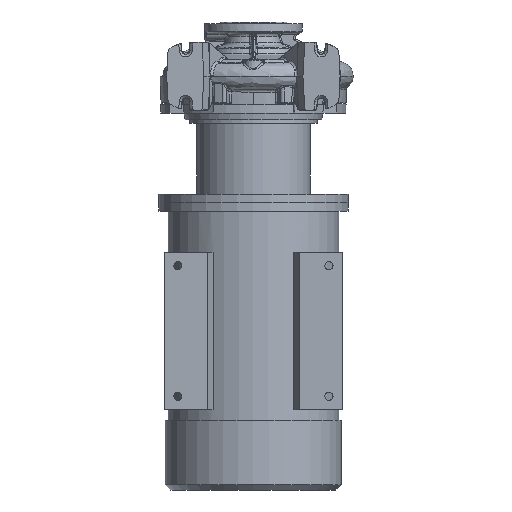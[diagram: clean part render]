
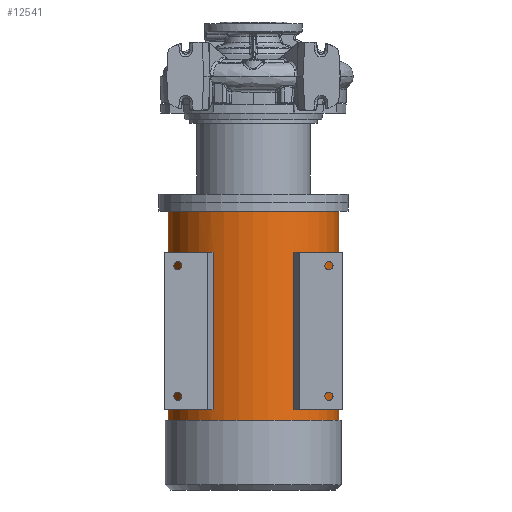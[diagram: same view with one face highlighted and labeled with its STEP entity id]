
A CAD part, front view. The second image highlights one B-rep face of the part: STEP entity #12541.
In plain terms, the highlighted cylindrical face has radius 157.5 mm (diameter 315 mm), a partial arc.
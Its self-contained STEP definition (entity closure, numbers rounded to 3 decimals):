
#185 = DIRECTION ( 'NONE',  ( 0., 0., -1. ) ) ;
#416 = LINE ( 'NONE', #84147, #65145 ) ;
#608 = DIRECTION ( 'NONE',  ( 0., 0., 1. ) ) ;
#690 = ORIENTED_EDGE ( 'NONE', *, *, #46522, .F. ) ;
#981 = VERTEX_POINT ( 'NONE', #20526 ) ;
#1219 = CARTESIAN_POINT ( 'NONE',  ( 74.479, -138.777, -764. ) ) ;
#2522 = CIRCLE ( 'NONE', #5265, 157.5 ) ;
#2725 = DIRECTION ( 'NONE',  ( 0., 0., -1. ) ) ;
#3087 = VERTEX_POINT ( 'NONE', #51834 ) ;
#3125 = VECTOR ( 'NONE', #29579, 1000. ) ;
#3886 = DIRECTION ( 'NONE',  ( 0., 0., -1. ) ) ;
#3949 = CARTESIAN_POINT ( 'NONE',  ( 0., 0., -325.5 ) ) ;
#4939 = LINE ( 'NONE', #48304, #90705 ) ;
#5265 = AXIS2_PLACEMENT_3D ( 'NONE', #11859, #3886, #46486 ) ;
#5343 = EDGE_CURVE ( 'NONE', #3087, #49482, #34241, .T. ) ;
#5464 = VERTEX_POINT ( 'NONE', #30559 ) ;
#5625 = CARTESIAN_POINT ( 'NONE',  ( 0., 0., -325.5 ) ) ;
#5710 = LINE ( 'NONE', #56888, #71613 ) ;
#5922 = AXIS2_PLACEMENT_3D ( 'NONE', #78295, #8237, #31495 ) ;
#7129 = EDGE_CURVE ( 'NONE', #70695, #53732, #39959, .T. ) ;
#7170 = EDGE_CURVE ( 'NONE', #23706, #46280, #87375, .T. ) ;
#7984 = ORIENTED_EDGE ( 'NONE', *, *, #15955, .T. ) ;
#8237 = DIRECTION ( 'NONE',  ( 0., 0., -1. ) ) ;
#8559 = ORIENTED_EDGE ( 'NONE', *, *, #43470, .F. ) ;
#9462 = VERTEX_POINT ( 'NONE', #55089 ) ;
#11723 = EDGE_LOOP ( 'NONE', ( #690, #22804, #36963, #90199 ) ) ;
#11859 = CARTESIAN_POINT ( 'NONE',  ( 0., 0., -249. ) ) ;
#11992 = AXIS2_PLACEMENT_3D ( 'NONE', #57033, #28754, #78281 ) ;
#12541 = ADVANCED_FACE ( 'NONE', ( #80023, #50212, #30498 ), #28308, .T. ) ;
#14687 = AXIS2_PLACEMENT_3D ( 'NONE', #3949, #46234, #17480 ) ;
#15955 = EDGE_CURVE ( 'NONE', #46280, #9462, #18081, .T. ) ;
#15975 = VERTEX_POINT ( 'NONE', #25408 ) ;
#17480 = DIRECTION ( 'NONE',  ( -1., 0., 0. ) ) ;
#18081 = CIRCLE ( 'NONE', #14687, 157.5 ) ;
#18415 = CARTESIAN_POINT ( 'NONE',  ( 0., 0., -615.5 ) ) ;
#19827 = LINE ( 'NONE', #64996, #68179 ) ;
#19852 = EDGE_CURVE ( 'NONE', #23706, #981, #51982, .T. ) ;
#20526 = CARTESIAN_POINT ( 'NONE',  ( 86.091, -131.889, -615.5 ) ) ;
#22031 = DIRECTION ( 'NONE',  ( 0., 0., -1. ) ) ;
#22489 = AXIS2_PLACEMENT_3D ( 'NONE', #18415, #54541, #48405 ) ;
#22804 = ORIENTED_EDGE ( 'NONE', *, *, #56120, .T. ) ;
#23706 = VERTEX_POINT ( 'NONE', #70924 ) ;
#24971 = ORIENTED_EDGE ( 'NONE', *, *, #61064, .T. ) ;
#25357 = CIRCLE ( 'NONE', #22489, 157.5 ) ;
#25408 = CARTESIAN_POINT ( 'NONE',  ( 157.5, 0., -249. ) ) ;
#26456 = DIRECTION ( 'NONE',  ( 0., 0., -1. ) ) ;
#28308 = CYLINDRICAL_SURFACE ( 'NONE', #5922, 157.5 ) ;
#28754 = DIRECTION ( 'NONE',  ( 0., 0., 1. ) ) ;
#29044 = DIRECTION ( 'NONE',  ( -1., 0., 0. ) ) ;
#29579 = DIRECTION ( 'NONE',  ( 0., 0., -1. ) ) ;
#30498 = FACE_BOUND ( 'NONE', #42424, .T. ) ;
#30559 = CARTESIAN_POINT ( 'NONE',  ( -74.479, -138.777, -615.5 ) ) ;
#30717 = AXIS2_PLACEMENT_3D ( 'NONE', #35472, #22031, #29044 ) ;
#31495 = DIRECTION ( 'NONE',  ( -1., 0., 0. ) ) ;
#34241 = CIRCLE ( 'NONE', #36979, 157.5 ) ;
#35472 = CARTESIAN_POINT ( 'NONE',  ( 0., 0., -635. ) ) ;
#35956 = LINE ( 'NONE', #86542, #3125 ) ;
#36348 = VERTEX_POINT ( 'NONE', #64501 ) ;
#36963 = ORIENTED_EDGE ( 'NONE', *, *, #51544, .T. ) ;
#36979 = AXIS2_PLACEMENT_3D ( 'NONE', #5625, #26456, #75631 ) ;
#39959 = CIRCLE ( 'NONE', #30717, 157.5 ) ;
#41359 = ORIENTED_EDGE ( 'NONE', *, *, #19852, .F. ) ;
#42366 = CARTESIAN_POINT ( 'NONE',  ( -86.091, -131.889, -325.5 ) ) ;
#42424 = EDGE_LOOP ( 'NONE', ( #64818, #83835, #8559, #53722 ) ) ;
#43470 = EDGE_CURVE ( 'NONE', #49482, #50431, #5710, .T. ) ;
#46234 = DIRECTION ( 'NONE',  ( 0., 0., 1. ) ) ;
#46280 = VERTEX_POINT ( 'NONE', #68634 ) ;
#46486 = DIRECTION ( 'NONE',  ( -1., 0., 0. ) ) ;
#46522 = EDGE_CURVE ( 'NONE', #15975, #70695, #35956, .T. ) ;
#48304 = CARTESIAN_POINT ( 'NONE',  ( -157.5, 0., -764. ) ) ;
#48405 = DIRECTION ( 'NONE',  ( 1., 0., 0. ) ) ;
#49482 = VERTEX_POINT ( 'NONE', #42366 ) ;
#50212 = FACE_BOUND ( 'NONE', #86284, .T. ) ;
#50431 = VERTEX_POINT ( 'NONE', #60318 ) ;
#51544 = EDGE_CURVE ( 'NONE', #36348, #53732, #4939, .T. ) ;
#51834 = CARTESIAN_POINT ( 'NONE',  ( -74.479, -138.777, -325.5 ) ) ;
#51982 = CIRCLE ( 'NONE', #11992, 157.5 ) ;
#52893 = EDGE_CURVE ( 'NONE', #5464, #3087, #416, .T. ) ;
#53722 = ORIENTED_EDGE ( 'NONE', *, *, #5343, .F. ) ;
#53732 = VERTEX_POINT ( 'NONE', #84275 ) ;
#54541 = DIRECTION ( 'NONE',  ( 0., 0., -1. ) ) ;
#54602 = ORIENTED_EDGE ( 'NONE', *, *, #7170, .T. ) ;
#55089 = CARTESIAN_POINT ( 'NONE',  ( 86.091, -131.889, -325.5 ) ) ;
#56120 = EDGE_CURVE ( 'NONE', #15975, #36348, #2522, .T. ) ;
#56888 = CARTESIAN_POINT ( 'NONE',  ( -86.091, -131.889, -764. ) ) ;
#57033 = CARTESIAN_POINT ( 'NONE',  ( 0., 0., -615.5 ) ) ;
#57585 = CARTESIAN_POINT ( 'NONE',  ( 157.5, 0., -635. ) ) ;
#60318 = CARTESIAN_POINT ( 'NONE',  ( -86.091, -131.889, -615.5 ) ) ;
#61064 = EDGE_CURVE ( 'NONE', #9462, #981, #19827, .T. ) ;
#63055 = VECTOR ( 'NONE', #608, 1000. ) ;
#64501 = CARTESIAN_POINT ( 'NONE',  ( -157.5, 0., -249. ) ) ;
#64818 = ORIENTED_EDGE ( 'NONE', *, *, #52893, .F. ) ;
#64996 = CARTESIAN_POINT ( 'NONE',  ( 86.091, -131.889, -764. ) ) ;
#65145 = VECTOR ( 'NONE', #90652, 1000. ) ;
#67663 = EDGE_CURVE ( 'NONE', #5464, #50431, #25357, .T. ) ;
#68179 = VECTOR ( 'NONE', #2725, 1000. ) ;
#68634 = CARTESIAN_POINT ( 'NONE',  ( 74.479, -138.777, -325.5 ) ) ;
#70695 = VERTEX_POINT ( 'NONE', #57585 ) ;
#70924 = CARTESIAN_POINT ( 'NONE',  ( 74.479, -138.777, -615.5 ) ) ;
#71613 = VECTOR ( 'NONE', #185, 1000. ) ;
#75631 = DIRECTION ( 'NONE',  ( 1., 0., 0. ) ) ;
#76317 = DIRECTION ( 'NONE',  ( 0., 0., -1. ) ) ;
#78281 = DIRECTION ( 'NONE',  ( -1., 0., 0. ) ) ;
#78295 = CARTESIAN_POINT ( 'NONE',  ( 0., 0., -764. ) ) ;
#80023 = FACE_OUTER_BOUND ( 'NONE', #11723, .T. ) ;
#83835 = ORIENTED_EDGE ( 'NONE', *, *, #67663, .T. ) ;
#84147 = CARTESIAN_POINT ( 'NONE',  ( -74.479, -138.777, -764. ) ) ;
#84275 = CARTESIAN_POINT ( 'NONE',  ( -157.5, 0., -635. ) ) ;
#86284 = EDGE_LOOP ( 'NONE', ( #41359, #54602, #7984, #24971 ) ) ;
#86542 = CARTESIAN_POINT ( 'NONE',  ( 157.5, 0., -764. ) ) ;
#87375 = LINE ( 'NONE', #1219, #63055 ) ;
#90199 = ORIENTED_EDGE ( 'NONE', *, *, #7129, .F. ) ;
#90652 = DIRECTION ( 'NONE',  ( 0., 0., 1. ) ) ;
#90705 = VECTOR ( 'NONE', #76317, 1000. ) ;
